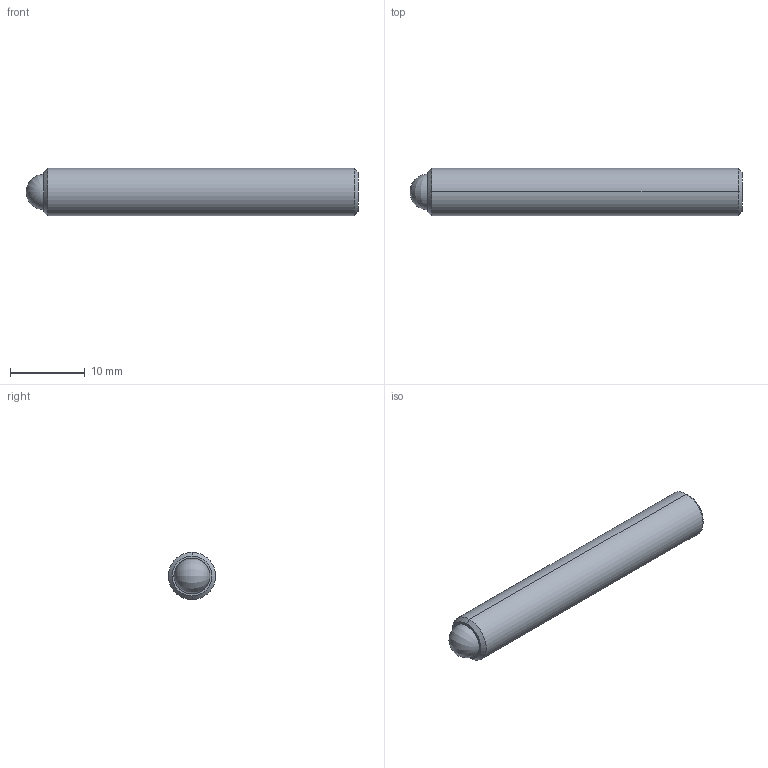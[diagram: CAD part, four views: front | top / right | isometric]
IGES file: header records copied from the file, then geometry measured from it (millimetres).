
Start section: SolidWorks IGES file using analytic representation for surfaces
Global section: file name: C:\Users\workpc\Desktop\KMA Solidworks\TS250-80 Series\TS250-80 High Vacuum\TS250-80 High Vacuum 3D Models\TS250-80-1750-AA-HV.IGS; native system: SolidWorks 2013; preprocessor: SolidWorks 2013; author: workpc; date: 130510.104119; units: inch
Bounding box: 44.45 x 6.35 x 6.35 mm (x, y, z)
Surface area: 1012.8 mm2 (no closed solid volume)
Topology: 0 solids, 0 shells, 24 faces, 240 edges, 236 vertices
Faces by surface type: revolution 14, bspline 10
